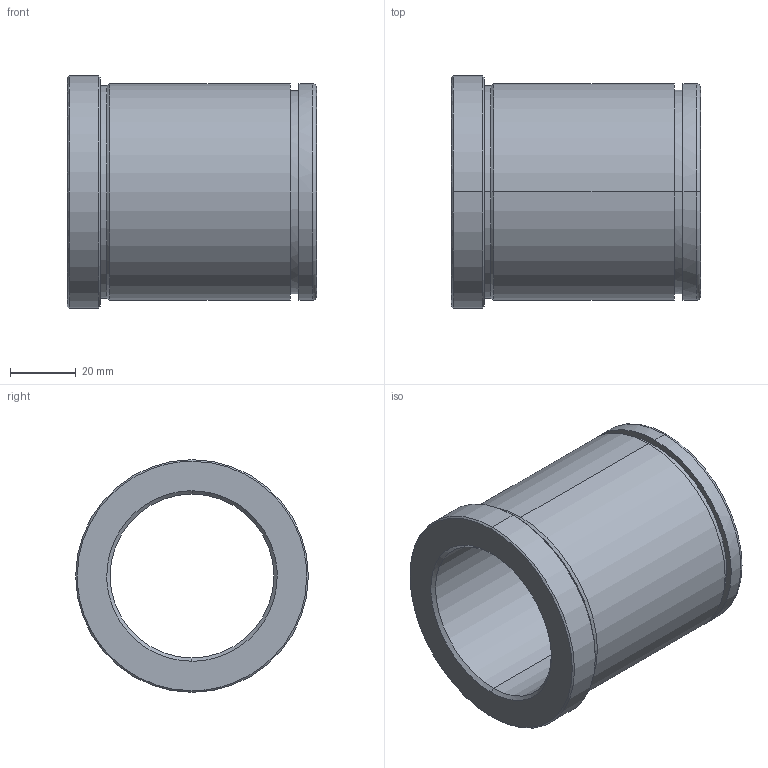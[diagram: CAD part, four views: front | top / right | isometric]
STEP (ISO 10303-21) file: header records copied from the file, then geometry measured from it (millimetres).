
FILE_DESCRIPTION(('CATIA V5 STEP Exchange'),'2;1');
FILE_NAME('C:\Users\Utente\Desktop\IO LAVORO\3D X SITO CF\X SITO\PLASTICA\553\553-50X76.stp','2021-06-08T18:25:08+00:00',('none'),('none'),'CATIA Version 5 Release 20 GA (IN-10)','CATIA V5 STEP AP203','none');
FILE_SCHEMA(('CONFIG_CONTROL_DESIGN'));
Length unit declared in the file: millimetre
Products named in the file (1): 553-50X76
Bounding box: 76 x 71 x 71 mm (x, y, z)
Volume: 114435.1 mm3; surface area: 32243.3 mm2
Topology: 1 solids, 1 shells, 29 faces, 92 edges, 68 vertices
Faces by surface type: cylinder 12, cone 8, plane 5, torus 4
Entity records: 1228 total; most frequent: CARTESIAN_POINT 374, ORIENTED_EDGE 184, DIRECTION 136, EDGE_CURVE 92, AXIS2_PLACEMENT_3D 88, VERTEX_POINT 68, CIRCLE 58, EDGE_LOOP 34
